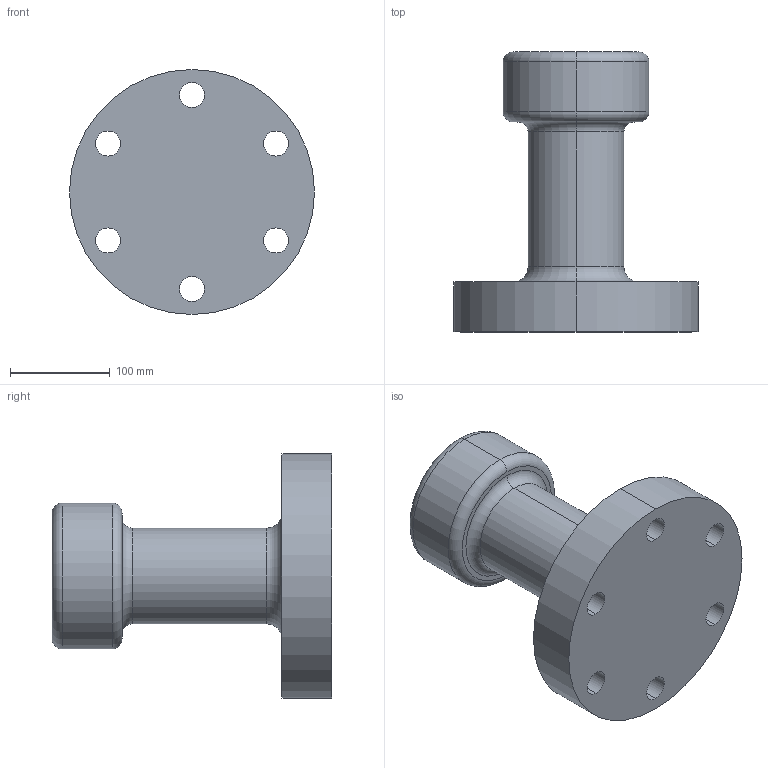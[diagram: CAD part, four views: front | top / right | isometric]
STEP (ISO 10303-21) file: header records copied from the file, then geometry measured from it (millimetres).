
FILE_DESCRIPTION (( 'STEP AP203' ), '1' );
FILE_NAME ('Plot_60T.STEP', '2022-03-22T15:39:55', ( '' ), ( '' ), 'SwSTEP 2.0', 'SolidWorks 2021', '' );
FILE_SCHEMA (( 'CONFIG_CONTROL_DESIGN' ));
Length unit declared in the file: millimetre
Products named in the file (1): Plot_60T
Bounding box: 245 x 280 x 245 mm (x, y, z)
Volume: 4543207.5 mm3; surface area: 242693.8 mm2
Topology: 1 solids, 1 shells, 30 faces, 70 edges, 44 vertices
Faces by surface type: cylinder 18, torus 8, plane 4
Entity records: 983 total; most frequent: DIRECTION 184, CARTESIAN_POINT 145, ORIENTED_EDGE 140, AXIS2_PLACEMENT_3D 83, EDGE_CURVE 70, CIRCLE 52, VERTEX_POINT 44, EDGE_LOOP 44
